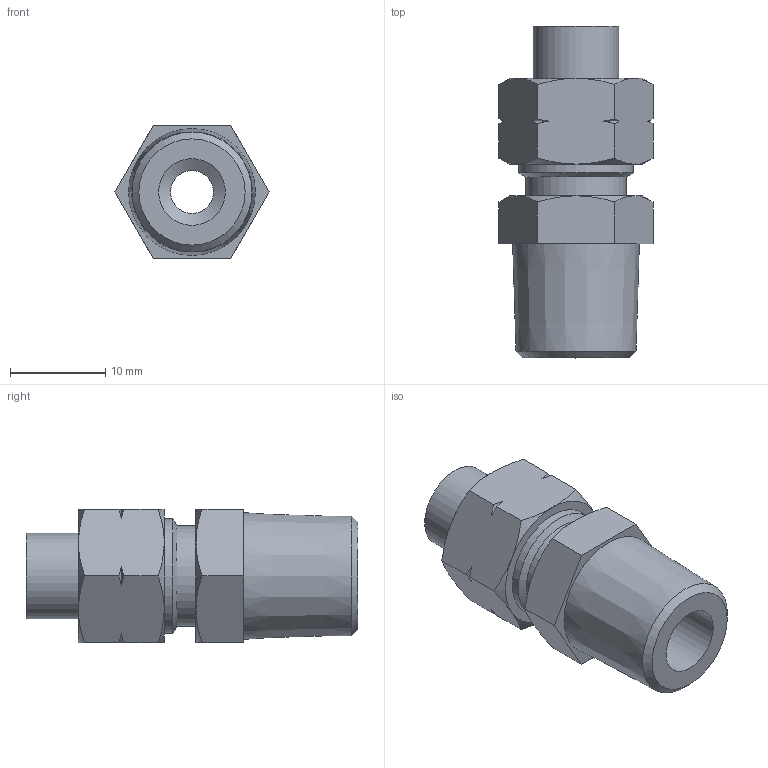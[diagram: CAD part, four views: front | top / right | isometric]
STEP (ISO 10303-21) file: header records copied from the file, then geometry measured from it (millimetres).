
FILE_DESCRIPTION((''),'2;1');
FILE_NAME('D:\INVENTOR\[New Inventor]\CDC Products 3D Ass''y\Two-Touch Fittings\Metric\CC\CC8-6--02.stp','2009-02-25T17:30:17',('Microsoft'),(''),'Autodesk Inventor 2008','Autodesk Inventor 2008','');
FILE_SCHEMA(('AUTOMOTIVE_DESIGN { 1 0 10303 214 1 1 1 1 }'));
Length unit declared in the file: millimetre
Products named in the file (1): CC8-6--02
Bounding box: 16.17 x 34.83 x 14 mm (x, y, z)
Volume: 3224.6 mm3; surface area: 2914.6 mm2
Topology: 1 solids, 1 shells, 62 faces, 138 edges, 84 vertices
Faces by surface type: cone 33, plane 20, cylinder 6, bspline 2, torus 1
Full cylindrical faces by diameter (mm): 4.5 x1, 5.7 x1, 8.2 x1, 9 x1, 10.5 x1, 12 x1
Entity records: 1628 total; most frequent: CARTESIAN_POINT 427, ORIENTED_EDGE 252, DIRECTION 230, EDGE_CURVE 126, AXIS2_PLACEMENT_3D 103, VERTEX_POINT 84, EDGE_LOOP 82, FACE_OUTER_BOUND 62
